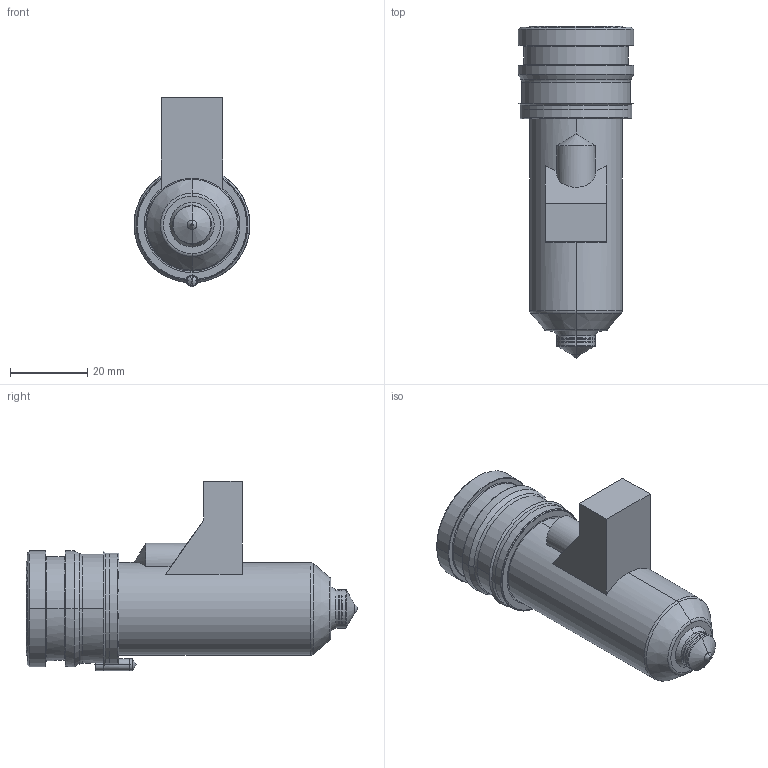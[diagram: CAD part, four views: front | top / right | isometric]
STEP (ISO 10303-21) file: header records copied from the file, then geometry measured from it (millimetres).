
FILE_DESCRIPTION((''),'2;1');
FILE_NAME('MPN-10-29-TS10-066-M','2026-02-05T12:48:54',('UPTIO'),('Thermoplay S.p.A.'),'CREO PARAMETRIC BY PTC INC, 2023494','CREO PARAMETRIC BY PTC INC, 2023494','');
FILE_SCHEMA(('CONFIG_CONTROL_DESIGN','SHAPE_APPEARANCE_LAYERS_GROUPS'));
Length unit declared in the file: millimetre
Products named in the file (1): MPN-10-29-TS10-066-M
Bounding box: 30 x 86 x 49 mm (x, y, z)
Volume: 28186.6 mm3; surface area: 28781.7 mm2
Topology: 3 solids, 5 shells, 542 faces, 1383 edges, 843 vertices
Faces by surface type: cylinder 177, plane 148, bspline 72, torus 67, cone 64, sphere 10, extrusion 4
Entity records: 28747 total; most frequent: CARTESIAN_POINT 12971, ORIENTED_EDGE 2748, DIRECTION 2578, EDGE_CURVE 1374, AXIS2_PLACEMENT_3D 1023, VERTEX_POINT 843, EDGE_LOOP 571, CIRCLE 556
